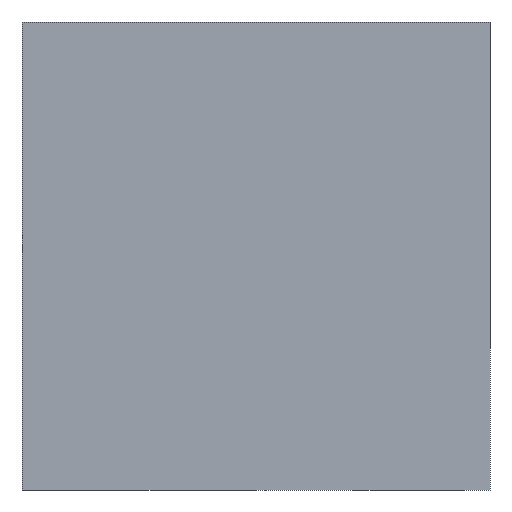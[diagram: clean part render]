
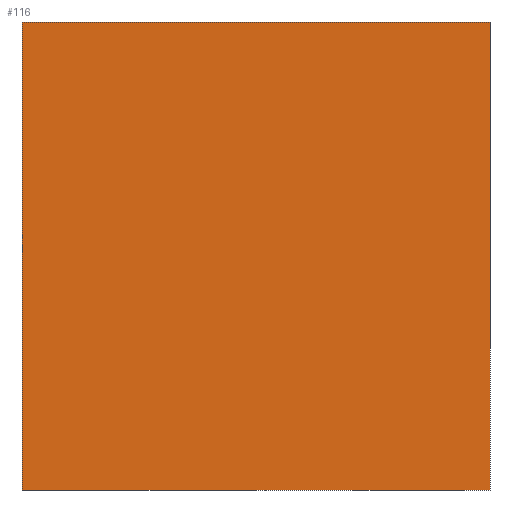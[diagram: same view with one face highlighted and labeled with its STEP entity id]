
A CAD part, left-side view. The second image highlights one B-rep face of the part: STEP entity #116.
In plain terms, the highlighted planar face has unit normal (-1, 0, 0).
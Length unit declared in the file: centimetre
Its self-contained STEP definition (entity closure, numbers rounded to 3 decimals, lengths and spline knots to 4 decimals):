
#38 = VERTEX_POINT ( 'NONE', #145 ) ;
#70 = LINE ( 'NONE', #495, #391 ) ;
#97 = FACE_OUTER_BOUND ( 'NONE', #367, .T. ) ;
#116 = ADVANCED_FACE ( 'NONE', ( #97 ), #452, .F. ) ;
#145 = CARTESIAN_POINT ( 'NONE',  ( 0., 0., 0. ) ) ;
#182 = ORIENTED_EDGE ( 'NONE', *, *, #280, .F. ) ;
#184 = DIRECTION ( 'NONE',  ( 0., -1., 0. ) ) ;
#192 = DIRECTION ( 'NONE',  ( 0., -1., 0. ) ) ;
#193 = VECTOR ( 'NONE', #192, 100. ) ;
#195 = LINE ( 'NONE', #441, #193 ) ;
#214 = EDGE_CURVE ( 'NONE', #327, #457, #563, .T. ) ;
#251 = CARTESIAN_POINT ( 'NONE',  ( 0., 1000., 1000. ) ) ;
#252 = AXIS2_PLACEMENT_3D ( 'NONE', #501, #490, #542 ) ;
#265 = EDGE_CURVE ( 'NONE', #327, #496, #359, .T. ) ;
#280 = EDGE_CURVE ( 'NONE', #457, #38, #70, .T. ) ;
#313 = VECTOR ( 'NONE', #375, 100. ) ;
#320 = CARTESIAN_POINT ( 'NONE',  ( 0., 0., 1000. ) ) ;
#326 = ORIENTED_EDGE ( 'NONE', *, *, #214, .F. ) ;
#327 = VERTEX_POINT ( 'NONE', #434 ) ;
#353 = CARTESIAN_POINT ( 'NONE',  ( 0., 1000., 1000. ) ) ;
#359 = LINE ( 'NONE', #251, #313 ) ;
#367 = EDGE_LOOP ( 'NONE', ( #379, #182, #326, #373 ) ) ;
#373 = ORIENTED_EDGE ( 'NONE', *, *, #265, .T. ) ;
#375 = DIRECTION ( 'NONE',  ( 0., 0., -1. ) ) ;
#379 = ORIENTED_EDGE ( 'NONE', *, *, #385, .T. ) ;
#385 = EDGE_CURVE ( 'NONE', #496, #38, #195, .T. ) ;
#391 = VECTOR ( 'NONE', #504, 100. ) ;
#434 = CARTESIAN_POINT ( 'NONE',  ( 0., 1000., 1000. ) ) ;
#441 = CARTESIAN_POINT ( 'NONE',  ( 0., 1000., 0. ) ) ;
#452 = PLANE ( 'NONE',  #252 ) ;
#457 = VERTEX_POINT ( 'NONE', #320 ) ;
#470 = CARTESIAN_POINT ( 'NONE',  ( 0., 1000., 0. ) ) ;
#473 = VECTOR ( 'NONE', #184, 100. ) ;
#490 = DIRECTION ( 'NONE',  ( 1., 0., 0. ) ) ;
#495 = CARTESIAN_POINT ( 'NONE',  ( 0., 0., 1000. ) ) ;
#496 = VERTEX_POINT ( 'NONE', #470 ) ;
#501 = CARTESIAN_POINT ( 'NONE',  ( 0., 1000., 1000. ) ) ;
#504 = DIRECTION ( 'NONE',  ( 0., 0., -1. ) ) ;
#542 = DIRECTION ( 'NONE',  ( 0., 0., -1. ) ) ;
#563 = LINE ( 'NONE', #353, #473 ) ;
